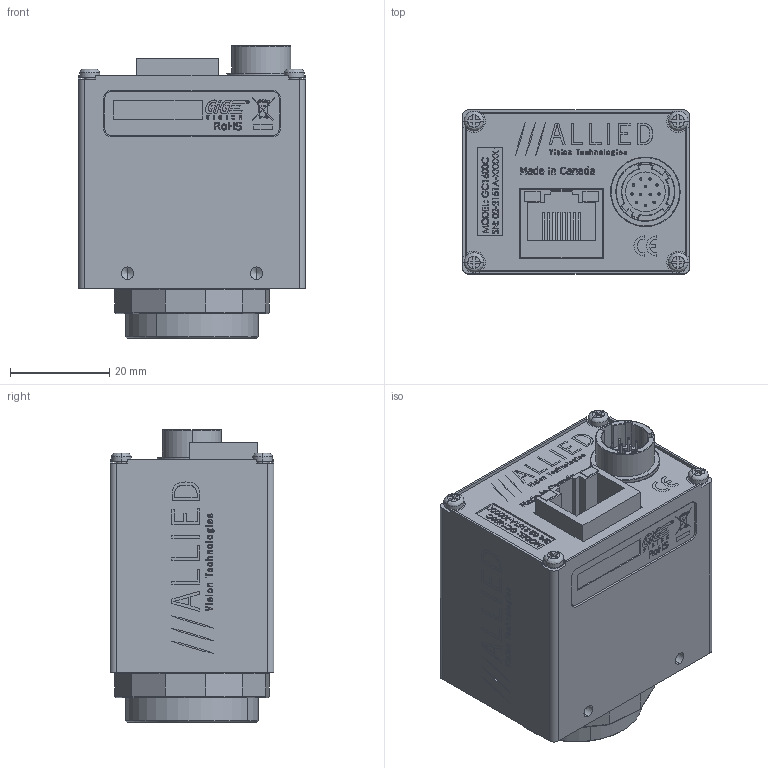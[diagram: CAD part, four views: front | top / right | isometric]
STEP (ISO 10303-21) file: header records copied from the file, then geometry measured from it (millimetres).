
FILE_DESCRIPTION (( 'STEP AP214' ), '1' );
FILE_NAME ('GC1600C.STEP', '2013-07-31T18:06:58', ( '' ), ( '' ), 'SwSTEP 2.0', 'SolidWorks 2013', '' );
FILE_SCHEMA (( 'AUTOMOTIVE_DESIGN' ));
Length unit declared in the file: millimetre
Products named in the file (23): 740123A-GC MAC LABEL; 200047A-A GC INTERFACE PCB ASSY; 260033-AMPHENOL RJHS-3381; 110042C GC-CCD FRONT_Finished with logo; 140013-washer spring lock M2; 740042A-A GC1600C LABEL PRINT; 140023-SCREW SKT CAP M2x10 SS; 110043A GC BACK PLATE; 110043A GC BACK PLATE - WO HW; GC1600C; 110031A-B EC-CCD LOCKING RING; 110003AC-CV CMOUNT RING; 740032B-GC MAIN LABEL; 110045B-EC-CCD DUST SHIELD GASKET; 260034-HIROSE HR10A-10R-12PB; 100097A-IR FILTER ASSEMBLY 0.75 INCH; 110054AB-IR FILTER SUPPORT; 440002-IR CUT FILTER 22MM DIA; 200043A-EC1600 COLOR PCB ASSY; 220076-SONY ICX274AQ; SONY ICX274 BODY; SONY ICX274 WINDOW; 140017-SCREW PAN M2x4 SS
Assembly tree (27 placements, depth 4):
  GC1600C
    140023-SCREW SKT CAP M2x10 SS  x2
    140013-washer spring lock M2  x2
    200047A-A GC INTERFACE PCB ASSY
      260033-AMPHENOL RJHS-3381
    740123A-GC MAC LABEL
    140017-SCREW PAN M2x4 SS  x4
    200043A-EC1600 COLOR PCB ASSY
      220076-SONY ICX274AQ
        SONY ICX274 WINDOW
        SONY ICX274 BODY
    100097A-IR FILTER ASSEMBLY 0.75 INCH
      440002-IR CUT FILTER 22MM DIA
      110054AB-IR FILTER SUPPORT
    260034-HIROSE HR10A-10R-12PB
    110045B-EC-CCD DUST SHIELD GASKET
    740032B-GC MAIN LABEL
    110003AC-CV CMOUNT RING
    110031A-B EC-CCD LOCKING RING
    110043A GC BACK PLATE
      110043A GC BACK PLATE - WO HW
    740042A-A GC1600C LABEL PRINT
    110042C GC-CCD FRONT_Finished with logo
Bounding box: 45.72 x 33.02 x 58.87 mm (x, y, z)
Volume: 22776.6 mm3; surface area: 33215.8 mm2
Topology: 22 solids, 22 shells, 3286 faces, 8614 edges, 5584 vertices
Faces by surface type: plane 1879, bspline 915, cylinder 294, cone 198
Entity records: 165841 total; most frequent: CARTESIAN_POINT 57556, ORIENTED_EDGE 16548, DIRECTION 11864, EDGE_CURVE 8274, LINE 5694, VECTOR 5694, VERTEX_POINT 5414, EDGE_LOOP 3514
